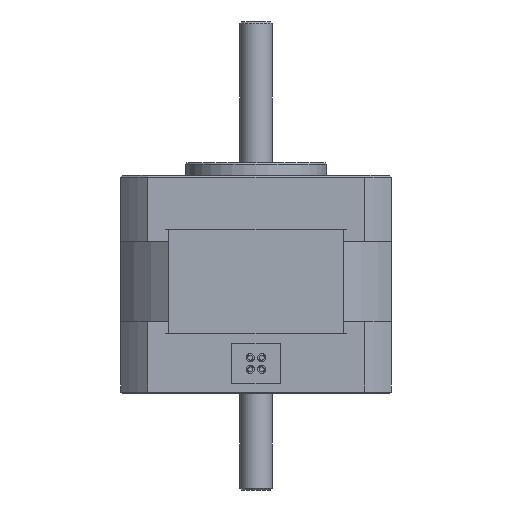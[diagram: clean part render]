
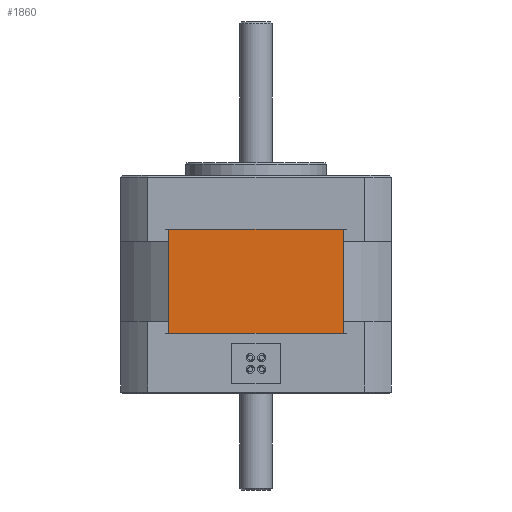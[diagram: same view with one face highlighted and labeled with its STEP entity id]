
A CAD part, front view. The second image highlights one B-rep face of the part: STEP entity #1860.
In plain terms, the highlighted planar face has unit normal (0, -1, 0).
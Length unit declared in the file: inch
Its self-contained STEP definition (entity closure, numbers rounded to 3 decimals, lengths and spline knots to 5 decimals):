
#1556 = VERTEX_POINT ( 'NONE', #5458 ) ;
#1558 = VERTEX_POINT ( 'NONE', #5466 ) ;
#1682 = EDGE_CURVE ( 'NONE', #1556, #1558, #6277, .T. ) ;
#1727 = EDGE_CURVE ( 'NONE', #1762, #1754, #6227, .T. ) ;
#1754 = VERTEX_POINT ( 'NONE', #6526 ) ;
#1762 = VERTEX_POINT ( 'NONE', #6521 ) ;
#1854 = ORIENTED_EDGE ( 'NONE', *, *, #1861, .F. ) ;
#1856 = ORIENTED_EDGE ( 'NONE', *, *, #1727, .T. ) ;
#1857 = EDGE_CURVE ( 'NONE', #1556, #1762, #6738, .T. ) ;
#1858 = EDGE_LOOP ( 'NONE', ( #1856, #1854, #1864, #1866 ) ) ;
#1860 = ADVANCED_FACE ( 'NONE', ( #6733 ), #6739, .F. ) ;
#1861 = EDGE_CURVE ( 'NONE', #1558, #1754, #6752, .T. ) ;
#1864 = ORIENTED_EDGE ( 'NONE', *, *, #1682, .F. ) ;
#1866 = ORIENTED_EDGE ( 'NONE', *, *, #1857, .T. ) ;
#5458 = CARTESIAN_POINT ( 'NONE',  ( 0.53473, -0.829, -0.968 ) ) ;
#5466 = CARTESIAN_POINT ( 'NONE',  ( -0.53473, -0.829, -0.968 ) ) ;
#6217 = VECTOR ( 'NONE', #6222, 39.37008 ) ;
#6222 = DIRECTION ( 'NONE',  ( -1., 0., 0. ) ) ;
#6223 = CARTESIAN_POINT ( 'NONE',  ( 0.53473, -0.829, -0.33 ) ) ;
#6227 = LINE ( 'NONE', #6223, #6217 ) ;
#6269 = DIRECTION ( 'NONE',  ( -1., 0., 0. ) ) ;
#6270 = VECTOR ( 'NONE', #6269, 39.37008 ) ;
#6271 = CARTESIAN_POINT ( 'NONE',  ( 0.53473, -0.829, -0.968 ) ) ;
#6277 = LINE ( 'NONE', #6271, #6270 ) ;
#6521 = CARTESIAN_POINT ( 'NONE',  ( 0.53473, -0.829, -0.33 ) ) ;
#6526 = CARTESIAN_POINT ( 'NONE',  ( -0.53473, -0.829, -0.33 ) ) ;
#6687 = DIRECTION ( 'NONE',  ( 0., 0., 1. ) ) ;
#6688 = VECTOR ( 'NONE', #6687, 39.37008 ) ;
#6689 = CARTESIAN_POINT ( 'NONE',  ( -0.53473, -0.829, -0.968 ) ) ;
#6729 = DIRECTION ( 'NONE',  ( 0., 0., 1. ) ) ;
#6730 = VECTOR ( 'NONE', #6729, 39.37008 ) ;
#6731 = CARTESIAN_POINT ( 'NONE',  ( 0.53473, -0.829, -0.968 ) ) ;
#6732 = AXIS2_PLACEMENT_3D ( 'NONE', #6751, #6750, #6749 ) ;
#6733 = FACE_OUTER_BOUND ( 'NONE', #1858, .T. ) ;
#6738 = LINE ( 'NONE', #6731, #6730 ) ;
#6739 = PLANE ( 'NONE',  #6732 ) ;
#6749 = DIRECTION ( 'NONE',  ( -1., 0., 0. ) ) ;
#6750 = DIRECTION ( 'NONE',  ( 0., 1., 0. ) ) ;
#6751 = CARTESIAN_POINT ( 'NONE',  ( 0.53473, -0.829, -0.968 ) ) ;
#6752 = LINE ( 'NONE', #6689, #6688 ) ;
